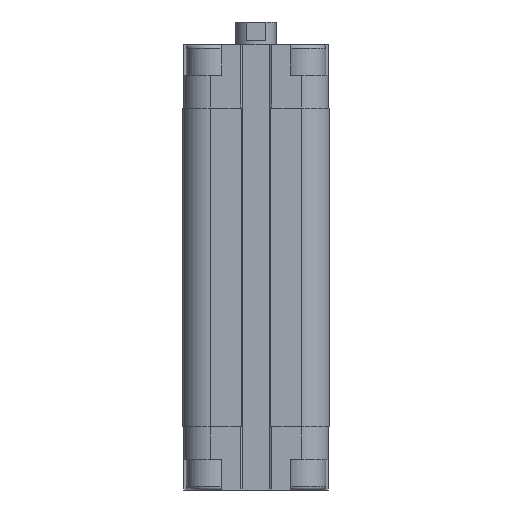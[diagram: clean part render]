
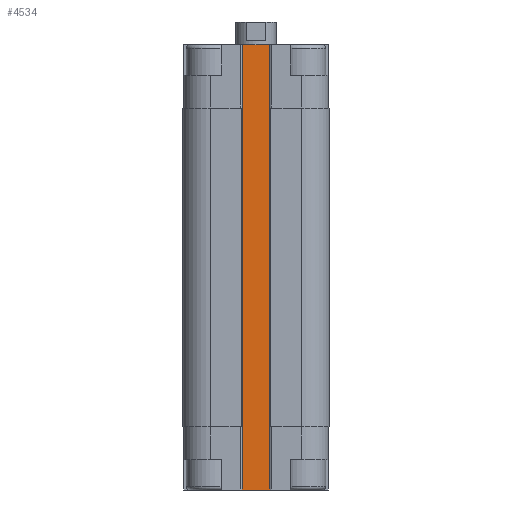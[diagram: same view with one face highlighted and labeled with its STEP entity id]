
A CAD part, front view. The second image highlights one B-rep face of the part: STEP entity #4534.
In plain terms, the highlighted planar face has unit normal (0, -1, 0).
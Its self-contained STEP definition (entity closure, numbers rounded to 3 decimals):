
#600 = EDGE_CURVE ( 'NONE', #2753, #6439, #8428, .T. ) ;
#801 = VERTEX_POINT ( 'NONE', #3138 ) ;
#1099 = VERTEX_POINT ( 'NONE', #1376 ) ;
#1346 = CARTESIAN_POINT ( 'NONE',  ( -3.2, -9.5, -75.5 ) ) ;
#1376 = CARTESIAN_POINT ( 'NONE',  ( -3., -9.5, -75.5 ) ) ;
#1398 = VECTOR ( 'NONE', #13119, 1000. ) ;
#1442 = VERTEX_POINT ( 'NONE', #5295 ) ;
#1641 = CARTESIAN_POINT ( 'NONE',  ( -3., -9.5, -88. ) ) ;
#1898 = DIRECTION ( 'NONE',  ( 1., 0., 0. ) ) ;
#2068 = VECTOR ( 'NONE', #10698, 1000. ) ;
#2252 = CARTESIAN_POINT ( 'NONE',  ( 3., -9.5, -12.5 ) ) ;
#2256 = CARTESIAN_POINT ( 'NONE',  ( 3.2, -9.5, -75.5 ) ) ;
#2271 = ORIENTED_EDGE ( 'NONE', *, *, #13715, .T. ) ;
#2313 = CARTESIAN_POINT ( 'NONE',  ( 3., -9.5, -88. ) ) ;
#2391 = EDGE_CURVE ( 'NONE', #2753, #1099, #7439, .T. ) ;
#2573 = CARTESIAN_POINT ( 'NONE',  ( -3., -9.5, -12.5 ) ) ;
#2610 = ORIENTED_EDGE ( 'NONE', *, *, #9415, .T. ) ;
#2704 = DIRECTION ( 'NONE',  ( 1., 0., 0. ) ) ;
#2710 = VECTOR ( 'NONE', #2704, 1000. ) ;
#2753 = VERTEX_POINT ( 'NONE', #4338 ) ;
#2832 = VECTOR ( 'NONE', #16121, 1000. ) ;
#3092 = ORIENTED_EDGE ( 'NONE', *, *, #3921, .F. ) ;
#3137 = FACE_OUTER_BOUND ( 'NONE', #8444, .T. ) ;
#3138 = CARTESIAN_POINT ( 'NONE',  ( 3., -9.5, -12.5 ) ) ;
#3166 = LINE ( 'NONE', #16780, #7648 ) ;
#3299 = CARTESIAN_POINT ( 'NONE',  ( -3.2, -9.5, -75.5 ) ) ;
#3490 = EDGE_CURVE ( 'NONE', #8519, #17222, #10629, .T. ) ;
#3921 = EDGE_CURVE ( 'NONE', #6439, #16202, #16460, .T. ) ;
#3943 = CARTESIAN_POINT ( 'NONE',  ( 3., -9.5, -88. ) ) ;
#4082 = VERTEX_POINT ( 'NONE', #7760 ) ;
#4194 = CARTESIAN_POINT ( 'NONE',  ( -3., -9.5, -12.5 ) ) ;
#4338 = CARTESIAN_POINT ( 'NONE',  ( -3.2, -9.5, -75.5 ) ) ;
#4389 = CARTESIAN_POINT ( 'NONE',  ( -3.2, -9.5, -75.5 ) ) ;
#4534 = ADVANCED_FACE ( 'NONE', ( #3137 ), #10877, .T. ) ;
#5295 = CARTESIAN_POINT ( 'NONE',  ( 3., -9.5, 0. ) ) ;
#5796 = VERTEX_POINT ( 'NONE', #2256 ) ;
#6305 = LINE ( 'NONE', #2252, #16236 ) ;
#6439 = VERTEX_POINT ( 'NONE', #16454 ) ;
#6480 = LINE ( 'NONE', #17283, #2068 ) ;
#6706 = LINE ( 'NONE', #1346, #11216 ) ;
#6948 = EDGE_CURVE ( 'NONE', #4082, #8519, #3166, .T. ) ;
#7157 = CARTESIAN_POINT ( 'NONE',  ( -3.2, -9.5, -12.5 ) ) ;
#7439 = LINE ( 'NONE', #3299, #7607 ) ;
#7607 = VECTOR ( 'NONE', #1898, 1000. ) ;
#7648 = VECTOR ( 'NONE', #16521, 1000. ) ;
#7760 = CARTESIAN_POINT ( 'NONE',  ( -3., -9.5, -88. ) ) ;
#7884 = CARTESIAN_POINT ( 'NONE',  ( 3., -9.5, -75.5 ) ) ;
#7957 = CARTESIAN_POINT ( 'NONE',  ( -3., -9.5, 0. ) ) ;
#8237 = LINE ( 'NONE', #1641, #11506 ) ;
#8428 = LINE ( 'NONE', #4389, #15252 ) ;
#8444 = EDGE_LOOP ( 'NONE', ( #13150, #15027, #3092, #10799, #11219, #9845, #15056, #12642, #10312, #2610, #15773, #2271 ) ) ;
#8519 = VERTEX_POINT ( 'NONE', #2313 ) ;
#8758 = CARTESIAN_POINT ( 'NONE',  ( -3., -9.5, -12.5 ) ) ;
#9319 = DIRECTION ( 'NONE',  ( 0., 0., 1. ) ) ;
#9415 = EDGE_CURVE ( 'NONE', #5796, #14245, #6480, .T. ) ;
#9570 = DIRECTION ( 'NONE',  ( -1., 0., 0. ) ) ;
#9845 = ORIENTED_EDGE ( 'NONE', *, *, #16065, .F. ) ;
#9895 = VECTOR ( 'NONE', #9319, 1000. ) ;
#10312 = ORIENTED_EDGE ( 'NONE', *, *, #14449, .T. ) ;
#10620 = CARTESIAN_POINT ( 'NONE',  ( -3., -9.5, 0. ) ) ;
#10629 = LINE ( 'NONE', #3943, #9895 ) ;
#10698 = DIRECTION ( 'NONE',  ( 0., 0., 1. ) ) ;
#10799 = ORIENTED_EDGE ( 'NONE', *, *, #600, .F. ) ;
#10877 = PLANE ( 'NONE',  #17208 ) ;
#11216 = VECTOR ( 'NONE', #12063, 1000. ) ;
#11219 = ORIENTED_EDGE ( 'NONE', *, *, #2391, .T. ) ;
#11506 = VECTOR ( 'NONE', #13600, 1000. ) ;
#11895 = EDGE_CURVE ( 'NONE', #801, #14245, #13516, .T. ) ;
#11906 = LINE ( 'NONE', #2573, #1398 ) ;
#12063 = DIRECTION ( 'NONE',  ( 1., 0., 0. ) ) ;
#12642 = ORIENTED_EDGE ( 'NONE', *, *, #3490, .T. ) ;
#13119 = DIRECTION ( 'NONE',  ( 0., 0., 1. ) ) ;
#13150 = ORIENTED_EDGE ( 'NONE', *, *, #16489, .F. ) ;
#13502 = VERTEX_POINT ( 'NONE', #10620 ) ;
#13516 = LINE ( 'NONE', #14739, #2710 ) ;
#13582 = LINE ( 'NONE', #7957, #2832 ) ;
#13600 = DIRECTION ( 'NONE',  ( 0., 0., 1. ) ) ;
#13715 = EDGE_CURVE ( 'NONE', #801, #1442, #6305, .T. ) ;
#14245 = VERTEX_POINT ( 'NONE', #15756 ) ;
#14250 = EDGE_CURVE ( 'NONE', #16202, #13502, #11906, .T. ) ;
#14449 = EDGE_CURVE ( 'NONE', #17222, #5796, #6706, .T. ) ;
#14739 = CARTESIAN_POINT ( 'NONE',  ( 9., -9.5, -12.5 ) ) ;
#14928 = DIRECTION ( 'NONE',  ( 0., 0., 1. ) ) ;
#15027 = ORIENTED_EDGE ( 'NONE', *, *, #14250, .F. ) ;
#15056 = ORIENTED_EDGE ( 'NONE', *, *, #6948, .T. ) ;
#15134 = DIRECTION ( 'NONE',  ( 1., 0., 0. ) ) ;
#15252 = VECTOR ( 'NONE', #14928, 1000. ) ;
#15499 = VECTOR ( 'NONE', #15134, 1000. ) ;
#15756 = CARTESIAN_POINT ( 'NONE',  ( 3.2, -9.5, -12.5 ) ) ;
#15773 = ORIENTED_EDGE ( 'NONE', *, *, #11895, .F. ) ;
#16065 = EDGE_CURVE ( 'NONE', #4082, #1099, #8237, .T. ) ;
#16121 = DIRECTION ( 'NONE',  ( 1., 0., 0. ) ) ;
#16202 = VERTEX_POINT ( 'NONE', #8758 ) ;
#16236 = VECTOR ( 'NONE', #16843, 1000. ) ;
#16454 = CARTESIAN_POINT ( 'NONE',  ( -3.2, -9.5, -12.5 ) ) ;
#16460 = LINE ( 'NONE', #7157, #15499 ) ;
#16489 = EDGE_CURVE ( 'NONE', #13502, #1442, #13582, .T. ) ;
#16494 = DIRECTION ( 'NONE',  ( 0., -1., 0. ) ) ;
#16521 = DIRECTION ( 'NONE',  ( 1., 0., 0. ) ) ;
#16780 = CARTESIAN_POINT ( 'NONE',  ( -3., -9.5, -88. ) ) ;
#16843 = DIRECTION ( 'NONE',  ( 0., 0., 1. ) ) ;
#17208 = AXIS2_PLACEMENT_3D ( 'NONE', #4194, #16494, #9570 ) ;
#17222 = VERTEX_POINT ( 'NONE', #7884 ) ;
#17283 = CARTESIAN_POINT ( 'NONE',  ( 3.2, -9.5, -75.5 ) ) ;
